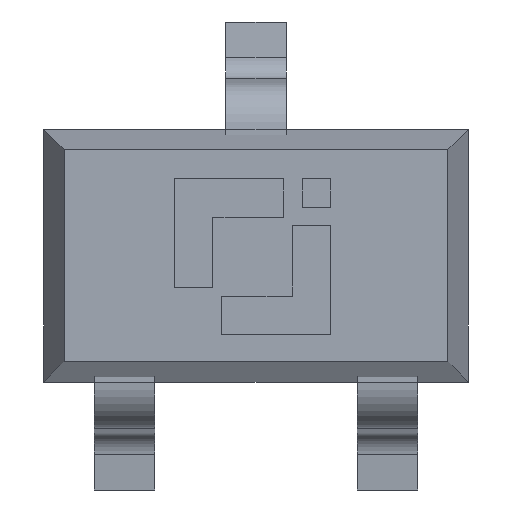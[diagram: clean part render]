
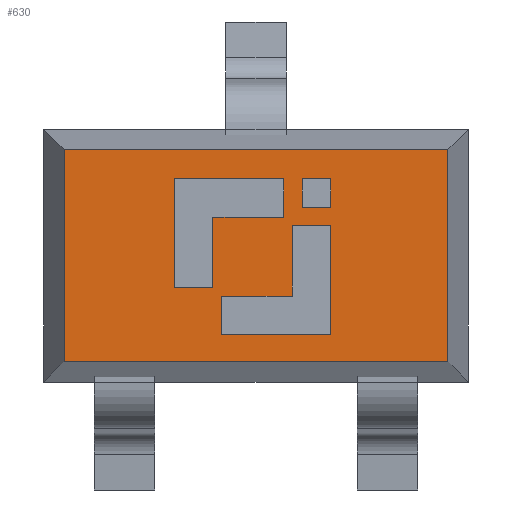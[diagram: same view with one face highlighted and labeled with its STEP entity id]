
A CAD part, top view. The second image highlights one B-rep face of the part: STEP entity #630.
In plain terms, the highlighted planar face has unit normal (0, 0, 1).
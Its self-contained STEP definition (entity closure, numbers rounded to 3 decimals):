
#457=CARTESIAN_POINT('',(0.,0.,0.95));
#458=DIRECTION('',(0.,0.,1.));
#459=DIRECTION('',(1.,0.,0.));
#460=AXIS2_PLACEMENT_3D('',#457,#458,#459);
#461=PLANE('',#460);
#462=CARTESIAN_POINT('',(0.229,0.24,0.95));
#463=VERTEX_POINT('',#462);
#464=CARTESIAN_POINT('',(0.369,0.24,0.95));
#465=VERTEX_POINT('',#464);
#466=CARTESIAN_POINT('',(0.229,0.24,0.95));
#467=DIRECTION('',(1.,0.,-0.));
#468=VECTOR('',#467,0.14);
#469=LINE('',#466,#468);
#470=EDGE_CURVE('',#463,#465,#469,.T.);
#471=ORIENTED_EDGE('',*,*,#470,.F.);
#472=CARTESIAN_POINT('',(0.229,0.38,0.95));
#473=VERTEX_POINT('',#472);
#474=CARTESIAN_POINT('',(0.229,0.38,0.95));
#475=DIRECTION('',(0.,-1.,0.));
#476=VECTOR('',#475,0.14);
#477=LINE('',#474,#476);
#478=EDGE_CURVE('',#473,#463,#477,.T.);
#479=ORIENTED_EDGE('',*,*,#478,.F.);
#480=CARTESIAN_POINT('',(0.369,0.38,0.95));
#481=VERTEX_POINT('',#480);
#482=CARTESIAN_POINT('',(0.369,0.38,0.95));
#483=DIRECTION('',(-1.,0.,0.));
#484=VECTOR('',#483,0.14);
#485=LINE('',#482,#484);
#486=EDGE_CURVE('',#481,#473,#485,.T.);
#487=ORIENTED_EDGE('',*,*,#486,.F.);
#488=CARTESIAN_POINT('',(0.369,0.24,0.95));
#489=DIRECTION('',(0.,1.,0.));
#490=VECTOR('',#489,0.14);
#491=LINE('',#488,#490);
#492=EDGE_CURVE('',#465,#481,#491,.T.);
#493=ORIENTED_EDGE('',*,*,#492,.F.);
#494=EDGE_LOOP('',(#471,#479,#487,#493));
#495=FACE_BOUND('',#494,.T.);
#496=CARTESIAN_POINT('',(0.95,0.525,0.95));
#497=VERTEX_POINT('',#496);
#498=CARTESIAN_POINT('',(-0.95,0.525,0.95));
#499=VERTEX_POINT('',#498);
#500=CARTESIAN_POINT('',(0.95,0.525,0.95));
#501=DIRECTION('',(-1.,-0.,0.));
#502=VECTOR('',#501,1.9);
#503=LINE('',#500,#502);
#504=EDGE_CURVE('',#497,#499,#503,.T.);
#505=ORIENTED_EDGE('',*,*,#504,.T.);
#506=CARTESIAN_POINT('',(-0.95,-0.525,0.95));
#507=VERTEX_POINT('',#506);
#508=CARTESIAN_POINT('',(-0.95,0.525,0.95));
#509=DIRECTION('',(0.,-1.,0.));
#510=VECTOR('',#509,1.05);
#511=LINE('',#508,#510);
#512=EDGE_CURVE('',#499,#507,#511,.T.);
#513=ORIENTED_EDGE('',*,*,#512,.T.);
#514=CARTESIAN_POINT('',(0.95,-0.525,0.95));
#515=VERTEX_POINT('',#514);
#516=CARTESIAN_POINT('',(-0.95,-0.525,0.95));
#517=DIRECTION('',(1.,0.,0.));
#518=VECTOR('',#517,1.9);
#519=LINE('',#516,#518);
#520=EDGE_CURVE('',#507,#515,#519,.T.);
#521=ORIENTED_EDGE('',*,*,#520,.T.);
#522=CARTESIAN_POINT('',(0.95,-0.525,0.95));
#523=DIRECTION('',(-0.,1.,0.));
#524=VECTOR('',#523,1.05);
#525=LINE('',#522,#524);
#526=EDGE_CURVE('',#515,#497,#525,.T.);
#527=ORIENTED_EDGE('',*,*,#526,.T.);
#528=EDGE_LOOP('',(#505,#513,#521,#527));
#529=FACE_BOUND('',#528,.T.);
#530=CARTESIAN_POINT('',(0.179,0.15,0.95));
#531=VERTEX_POINT('',#530);
#532=CARTESIAN_POINT('',(0.369,0.15,0.95));
#533=VERTEX_POINT('',#532);
#534=CARTESIAN_POINT('',(0.179,0.15,0.95));
#535=DIRECTION('',(1.,0.,-0.));
#536=VECTOR('',#535,0.19);
#537=LINE('',#534,#536);
#538=EDGE_CURVE('',#531,#533,#537,.T.);
#539=ORIENTED_EDGE('',*,*,#538,.T.);
#540=CARTESIAN_POINT('',(0.369,-0.39,0.95));
#541=VERTEX_POINT('',#540);
#542=CARTESIAN_POINT('',(0.369,0.15,0.95));
#543=DIRECTION('',(0.,-1.,0.));
#544=VECTOR('',#543,0.54);
#545=LINE('',#542,#544);
#546=EDGE_CURVE('',#533,#541,#545,.T.);
#547=ORIENTED_EDGE('',*,*,#546,.T.);
#548=CARTESIAN_POINT('',(-0.171,-0.39,0.95));
#549=VERTEX_POINT('',#548);
#550=CARTESIAN_POINT('',(0.369,-0.39,0.95));
#551=DIRECTION('',(-1.,0.,0.));
#552=VECTOR('',#551,0.54);
#553=LINE('',#550,#552);
#554=EDGE_CURVE('',#541,#549,#553,.T.);
#555=ORIENTED_EDGE('',*,*,#554,.T.);
#556=CARTESIAN_POINT('',(-0.171,-0.2,0.95));
#557=VERTEX_POINT('',#556);
#558=CARTESIAN_POINT('',(-0.171,-0.39,0.95));
#559=DIRECTION('',(0.,1.,0.));
#560=VECTOR('',#559,0.19);
#561=LINE('',#558,#560);
#562=EDGE_CURVE('',#549,#557,#561,.T.);
#563=ORIENTED_EDGE('',*,*,#562,.T.);
#564=CARTESIAN_POINT('',(0.179,-0.2,0.95));
#565=VERTEX_POINT('',#564);
#566=CARTESIAN_POINT('',(-0.171,-0.2,0.95));
#567=DIRECTION('',(1.,0.,-0.));
#568=VECTOR('',#567,0.35);
#569=LINE('',#566,#568);
#570=EDGE_CURVE('',#557,#565,#569,.T.);
#571=ORIENTED_EDGE('',*,*,#570,.T.);
#572=CARTESIAN_POINT('',(0.179,-0.2,0.95));
#573=DIRECTION('',(0.,1.,0.));
#574=VECTOR('',#573,0.35);
#575=LINE('',#572,#574);
#576=EDGE_CURVE('',#565,#531,#575,.T.);
#577=ORIENTED_EDGE('',*,*,#576,.T.);
#578=EDGE_LOOP('',(#539,#547,#555,#563,#571,#577));
#579=FACE_BOUND('',#578,.T.);
#580=CARTESIAN_POINT('',(-0.403,0.38,0.95));
#581=VERTEX_POINT('',#580);
#582=CARTESIAN_POINT('',(0.137,0.38,0.95));
#583=VERTEX_POINT('',#582);
#584=CARTESIAN_POINT('',(-0.403,0.38,0.95));
#585=DIRECTION('',(1.,0.,-0.));
#586=VECTOR('',#585,0.54);
#587=LINE('',#584,#586);
#588=EDGE_CURVE('',#581,#583,#587,.T.);
#589=ORIENTED_EDGE('',*,*,#588,.T.);
#590=CARTESIAN_POINT('',(0.137,0.19,0.95));
#591=VERTEX_POINT('',#590);
#592=CARTESIAN_POINT('',(0.137,0.38,0.95));
#593=DIRECTION('',(0.,-1.,0.));
#594=VECTOR('',#593,0.19);
#595=LINE('',#592,#594);
#596=EDGE_CURVE('',#583,#591,#595,.T.);
#597=ORIENTED_EDGE('',*,*,#596,.T.);
#598=CARTESIAN_POINT('',(-0.213,0.19,0.95));
#599=VERTEX_POINT('',#598);
#600=CARTESIAN_POINT('',(0.137,0.19,0.95));
#601=DIRECTION('',(-1.,0.,0.));
#602=VECTOR('',#601,0.35);
#603=LINE('',#600,#602);
#604=EDGE_CURVE('',#591,#599,#603,.T.);
#605=ORIENTED_EDGE('',*,*,#604,.T.);
#606=CARTESIAN_POINT('',(-0.213,-0.16,0.95));
#607=VERTEX_POINT('',#606);
#608=CARTESIAN_POINT('',(-0.213,0.19,0.95));
#609=DIRECTION('',(0.,-1.,0.));
#610=VECTOR('',#609,0.35);
#611=LINE('',#608,#610);
#612=EDGE_CURVE('',#599,#607,#611,.T.);
#613=ORIENTED_EDGE('',*,*,#612,.T.);
#614=CARTESIAN_POINT('',(-0.403,-0.16,0.95));
#615=VERTEX_POINT('',#614);
#616=CARTESIAN_POINT('',(-0.213,-0.16,0.95));
#617=DIRECTION('',(-1.,0.,0.));
#618=VECTOR('',#617,0.19);
#619=LINE('',#616,#618);
#620=EDGE_CURVE('',#607,#615,#619,.T.);
#621=ORIENTED_EDGE('',*,*,#620,.T.);
#622=CARTESIAN_POINT('',(-0.403,-0.16,0.95));
#623=DIRECTION('',(0.,1.,0.));
#624=VECTOR('',#623,0.54);
#625=LINE('',#622,#624);
#626=EDGE_CURVE('',#615,#581,#625,.T.);
#627=ORIENTED_EDGE('',*,*,#626,.T.);
#628=EDGE_LOOP('',(#589,#597,#605,#613,#621,#627));
#629=FACE_BOUND('',#628,.T.);
#630=ADVANCED_FACE('',(#495,#529,#579,#629),#461,.T.);
